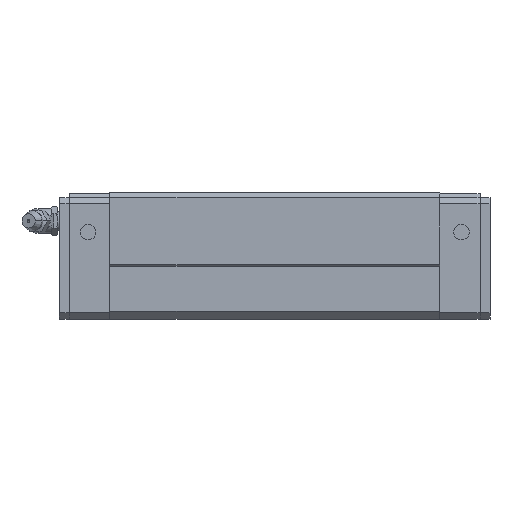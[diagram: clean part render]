
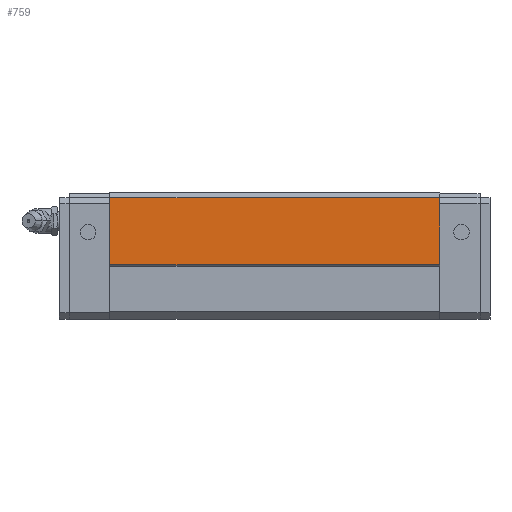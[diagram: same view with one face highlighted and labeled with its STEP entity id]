
A CAD part, front view. The second image highlights one B-rep face of the part: STEP entity #759.
In plain terms, the highlighted planar face has unit normal (0, -1, 0).
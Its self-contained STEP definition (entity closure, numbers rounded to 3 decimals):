
#698=CARTESIAN_POINT('POINT44',(122.,-35.,
   17.5));
#699=VERTEX_POINT('VERTEX44',#698);
#706=CARTESIAN_POINT('POINT45',(16.2,-35.,
   17.5));
#707=VERTEX_POINT('VERTEX45',#706);
#708=CARTESIAN_POINT('POS73',(16.2,-35.,17.5
   ));
#709=DIRECTION('DIR108',(1.,0.,0.));
#710=VECTOR('VEC38',#709,1.);
#711=LINE('STRAIGHT38',#708,#710);
#712=EDGE_CURVE('EDGE70',#707,#699,#711,.T.);
#729=CARTESIAN_POINT('POINT46',(122.,-35.,
   39.));
#730=VERTEX_POINT('VERTEX46',#729);
#731=CARTESIAN_POINT('POS76',(122.,-35.,39.)
   );
#732=DIRECTION('DIR112',(0.,0.,1.));
#733=VECTOR('VEC40',#732,1.);
#734=LINE('STRAIGHT40',#731,#733);
#735=EDGE_CURVE('EDGE72',#699,#730,#734,.T.);
#736=ORIENTED_EDGE('COEDGE127',*,*,#735,.T.);
#737=CARTESIAN_POINT('POINT47',(16.2,-35.,
   39.));
#738=VERTEX_POINT('VERTEX47',#737);
#739=CARTESIAN_POINT('POS77',(16.2,-35.,39.)
   );
#740=DIRECTION('DIR113',(1.,0.,0.));
#741=VECTOR('VEC41',#740,1.);
#742=LINE('STRAIGHT41',#739,#741);
#743=EDGE_CURVE('EDGE73',#738,#730,#742,.T.);
#744=ORIENTED_EDGE('COEDGE128',*,*,#743,.F.);
#745=CARTESIAN_POINT('POS78',(16.2,-35.,39.)
   );
#746=DIRECTION('DIR114',(0.,0.,-1.));
#747=VECTOR('VEC42',#746,1.);
#748=LINE('STRAIGHT42',#745,#747);
#749=EDGE_CURVE('EDGE74',#738,#707,#748,.T.);
#750=ORIENTED_EDGE('COEDGE129',*,*,#749,.T.);
#751=ORIENTED_EDGE('COEDGE130',*,*,#712,.T.);
#752=EDGE_LOOP('NONE',(#736,#744,#750,#751));
#753=FACE_BOUND('LOOP1',#752,.T.);
#754=CARTESIAN_POINT('POS79',(16.2,-35.,17.5
   ));
#755=DIRECTION('DIR115',(0.,-1.,0.));
#756=DIRECTION('DIR116',(1.,0.,0.));
#757=AXIS2_PLACEMENT_3D('AXIS37',#754,#755,#756);
#758=PLANE('PLANE8',#757);
#759=ADVANCED_FACE('FACE34',(#753),#758,.T.);
